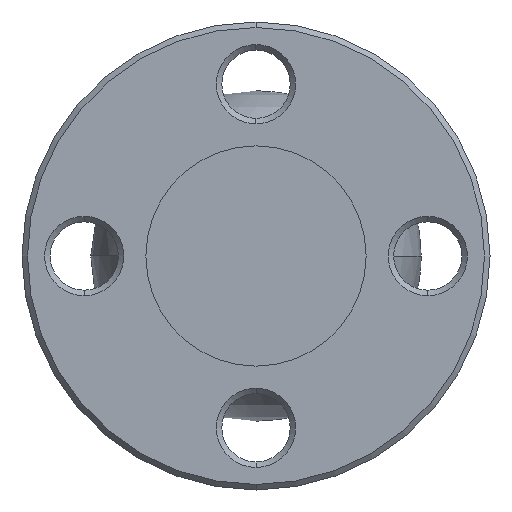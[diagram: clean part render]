
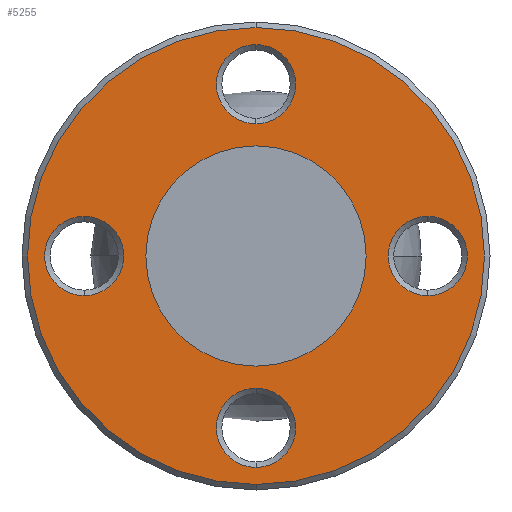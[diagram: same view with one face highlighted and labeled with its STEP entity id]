
A CAD part, front view. The second image highlights one B-rep face of the part: STEP entity #5255.
In plain terms, the highlighted planar face has unit normal (0, -1, 0).
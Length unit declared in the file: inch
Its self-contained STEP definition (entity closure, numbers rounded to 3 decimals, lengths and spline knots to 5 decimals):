
#53 = EDGE_LOOP ( 'NONE', ( #1490, #3469 ) ) ;
#369 = EDGE_LOOP ( 'NONE', ( #1106, #1000 ) ) ;
#420 = CARTESIAN_POINT ( 'NONE',  ( 0., 0.12, 0. ) ) ;
#533 = DIRECTION ( 'NONE',  ( 0., 1., 0. ) ) ;
#542 = ORIENTED_EDGE ( 'NONE', *, *, #836, .T. ) ;
#550 = CARTESIAN_POINT ( 'NONE',  ( -1.56, 0.12, -0.36 ) ) ;
#575 = EDGE_LOOP ( 'NONE', ( #822, #3507 ) ) ;
#586 = AXIS2_PLACEMENT_3D ( 'NONE', #1881, #5227, #2365 ) ;
#608 = AXIS2_PLACEMENT_3D ( 'NONE', #1906, #5249, #2382 ) ;
#717 = EDGE_LOOP ( 'NONE', ( #5828, #4735 ) ) ;
#722 = CIRCLE ( 'NONE', #608, 0.36 ) ;
#822 = ORIENTED_EDGE ( 'NONE', *, *, #3680, .T. ) ;
#836 = EDGE_CURVE ( 'NONE', #4338, #6109, #2460, .T. ) ;
#899 = DIRECTION ( 'NONE',  ( 0., 0., -1. ) ) ;
#953 = CARTESIAN_POINT ( 'NONE',  ( 0., 0.12, -1. ) ) ;
#969 = DIRECTION ( 'NONE',  ( 0., 1., 0. ) ) ;
#1000 = ORIENTED_EDGE ( 'NONE', *, *, #1596, .T. ) ;
#1045 = AXIS2_PLACEMENT_3D ( 'NONE', #5335, #5833, #2970 ) ;
#1106 = ORIENTED_EDGE ( 'NONE', *, *, #3545, .T. ) ;
#1112 = EDGE_CURVE ( 'NONE', #6109, #4338, #2248, .T. ) ;
#1139 = AXIS2_PLACEMENT_3D ( 'NONE', #1467, #4813, #1936 ) ;
#1175 = CARTESIAN_POINT ( 'NONE',  ( 1.56, 0.12, 0. ) ) ;
#1214 = FACE_BOUND ( 'NONE', #575, .T. ) ;
#1215 = AXIS2_PLACEMENT_3D ( 'NONE', #3825, #969, #4308 ) ;
#1336 = CARTESIAN_POINT ( 'NONE',  ( 0., 0.12, 0. ) ) ;
#1467 = CARTESIAN_POINT ( 'NONE',  ( -1.56, 0.12, 0. ) ) ;
#1490 = ORIENTED_EDGE ( 'NONE', *, *, #5633, .F. ) ;
#1505 = CARTESIAN_POINT ( 'NONE',  ( 0., 0.12, -1.56 ) ) ;
#1596 = EDGE_CURVE ( 'NONE', #2556, #2113, #4520, .T. ) ;
#1653 = DIRECTION ( 'NONE',  ( 0., 0., 1. ) ) ;
#1680 = AXIS2_PLACEMENT_3D ( 'NONE', #5097, #2231, #5581 ) ;
#1811 = DIRECTION ( 'NONE',  ( 0., 0., 1. ) ) ;
#1880 = AXIS2_PLACEMENT_3D ( 'NONE', #5273, #2402, #5743 ) ;
#1881 = CARTESIAN_POINT ( 'NONE',  ( 1.56, 0.12, 0. ) ) ;
#1906 = CARTESIAN_POINT ( 'NONE',  ( -1.56, 0.12, 0. ) ) ;
#1936 = DIRECTION ( 'NONE',  ( 0., 0., 1. ) ) ;
#1982 = DIRECTION ( 'NONE',  ( 0., 0., 1. ) ) ;
#2031 = VERTEX_POINT ( 'NONE', #953 ) ;
#2113 = VERTEX_POINT ( 'NONE', #550 ) ;
#2204 = VERTEX_POINT ( 'NONE', #3517 ) ;
#2231 = DIRECTION ( 'NONE',  ( 0., 1., 0. ) ) ;
#2248 = CIRCLE ( 'NONE', #2677, 2.075 ) ;
#2365 = DIRECTION ( 'NONE',  ( 0., 0., 1. ) ) ;
#2366 = VERTEX_POINT ( 'NONE', #3167 ) ;
#2382 = DIRECTION ( 'NONE',  ( 0., 0., 1. ) ) ;
#2402 = DIRECTION ( 'NONE',  ( 0., -1., 0. ) ) ;
#2423 = ORIENTED_EDGE ( 'NONE', *, *, #3391, .T. ) ;
#2460 = CIRCLE ( 'NONE', #5466, 2.075 ) ;
#2477 = FACE_BOUND ( 'NONE', #53, .T. ) ;
#2487 = AXIS2_PLACEMENT_3D ( 'NONE', #3377, #533, #3871 ) ;
#2556 = VERTEX_POINT ( 'NONE', #3710 ) ;
#2592 = CARTESIAN_POINT ( 'NONE',  ( 1.56, 0.12, -0.36 ) ) ;
#2677 = AXIS2_PLACEMENT_3D ( 'NONE', #2733, #6080, #3207 ) ;
#2733 = CARTESIAN_POINT ( 'NONE',  ( 0., 0.12, 0. ) ) ;
#2744 = ORIENTED_EDGE ( 'NONE', *, *, #5724, .T. ) ;
#2788 = CIRCLE ( 'NONE', #586, 0.36 ) ;
#2816 = CIRCLE ( 'NONE', #1880, 1. ) ;
#2970 = DIRECTION ( 'NONE',  ( 0., 0., 1. ) ) ;
#3002 = VERTEX_POINT ( 'NONE', #4071 ) ;
#3073 = CIRCLE ( 'NONE', #5506, 1. ) ;
#3167 = CARTESIAN_POINT ( 'NONE',  ( 0., 0.12, -1.2 ) ) ;
#3207 = DIRECTION ( 'NONE',  ( 0., 0., 1. ) ) ;
#3220 = VERTEX_POINT ( 'NONE', #4455 ) ;
#3377 = CARTESIAN_POINT ( 'NONE',  ( 0., 0.12, -1.56 ) ) ;
#3391 = EDGE_CURVE ( 'NONE', #3877, #3220, #3907, .T. ) ;
#3469 = ORIENTED_EDGE ( 'NONE', *, *, #3567, .F. ) ;
#3507 = ORIENTED_EDGE ( 'NONE', *, *, #5680, .T. ) ;
#3517 = CARTESIAN_POINT ( 'NONE',  ( 0., 0.12, -1.92 ) ) ;
#3545 = EDGE_CURVE ( 'NONE', #2113, #2556, #722, .T. ) ;
#3567 = EDGE_CURVE ( 'NONE', #5241, #2031, #2816, .T. ) ;
#3680 = EDGE_CURVE ( 'NONE', #5912, #3002, #3784, .T. ) ;
#3710 = CARTESIAN_POINT ( 'NONE',  ( -1.56, 0.12, 0.36 ) ) ;
#3717 = EDGE_LOOP ( 'NONE', ( #3837, #542 ) ) ;
#3747 = DIRECTION ( 'NONE',  ( 0., -1., 0. ) ) ;
#3766 = FACE_BOUND ( 'NONE', #4554, .T. ) ;
#3784 = CIRCLE ( 'NONE', #4134, 0.36 ) ;
#3825 = CARTESIAN_POINT ( 'NONE',  ( 0., 0.12, 1.56 ) ) ;
#3837 = ORIENTED_EDGE ( 'NONE', *, *, #1112, .T. ) ;
#3871 = DIRECTION ( 'NONE',  ( 0., 0., 1. ) ) ;
#3877 = VERTEX_POINT ( 'NONE', #6133 ) ;
#3907 = CIRCLE ( 'NONE', #1680, 0.36 ) ;
#4060 = CIRCLE ( 'NONE', #5661, 0.36 ) ;
#4071 = CARTESIAN_POINT ( 'NONE',  ( 1.56, 0.12, 0.36 ) ) ;
#4134 = AXIS2_PLACEMENT_3D ( 'NONE', #1175, #4521, #1653 ) ;
#4263 = CARTESIAN_POINT ( 'NONE',  ( 0., 0.12, -2.075 ) ) ;
#4308 = DIRECTION ( 'NONE',  ( 0., 0., 1. ) ) ;
#4338 = VERTEX_POINT ( 'NONE', #4263 ) ;
#4390 = PLANE ( 'NONE',  #1045 ) ;
#4455 = CARTESIAN_POINT ( 'NONE',  ( 0., 0.12, 1.2 ) ) ;
#4520 = CIRCLE ( 'NONE', #1139, 0.36 ) ;
#4521 = DIRECTION ( 'NONE',  ( 0., 1., 0. ) ) ;
#4554 = EDGE_LOOP ( 'NONE', ( #2744, #2423 ) ) ;
#4627 = CARTESIAN_POINT ( 'NONE',  ( 0., 0.12, 2.075 ) ) ;
#4689 = DIRECTION ( 'NONE',  ( 0., -1., 0. ) ) ;
#4735 = ORIENTED_EDGE ( 'NONE', *, *, #5214, .T. ) ;
#4813 = DIRECTION ( 'NONE',  ( 0., 1., 0. ) ) ;
#4846 = DIRECTION ( 'NONE',  ( 0., 1., 0. ) ) ;
#4859 = CIRCLE ( 'NONE', #2487, 0.36 ) ;
#5030 = FACE_BOUND ( 'NONE', #717, .T. ) ;
#5097 = CARTESIAN_POINT ( 'NONE',  ( 0., 0.12, 1.56 ) ) ;
#5189 = FACE_OUTER_BOUND ( 'NONE', #3717, .T. ) ;
#5214 = EDGE_CURVE ( 'NONE', #2366, #2204, #4060, .T. ) ;
#5227 = DIRECTION ( 'NONE',  ( 0., 1., 0. ) ) ;
#5241 = VERTEX_POINT ( 'NONE', #5771 ) ;
#5249 = DIRECTION ( 'NONE',  ( 0., 1., 0. ) ) ;
#5255 = ADVANCED_FACE ( 'NONE', ( #3766, #5030, #5189, #2477, #1214, #6168 ), #4390, .F. ) ;
#5273 = CARTESIAN_POINT ( 'NONE',  ( 0., 0.12, 0. ) ) ;
#5315 = CIRCLE ( 'NONE', #1215, 0.36 ) ;
#5335 = CARTESIAN_POINT ( 'NONE',  ( 1., 0.12, 0. ) ) ;
#5466 = AXIS2_PLACEMENT_3D ( 'NONE', #1336, #4689, #1811 ) ;
#5506 = AXIS2_PLACEMENT_3D ( 'NONE', #420, #3747, #899 ) ;
#5581 = DIRECTION ( 'NONE',  ( 0., 0., 1. ) ) ;
#5633 = EDGE_CURVE ( 'NONE', #2031, #5241, #3073, .T. ) ;
#5661 = AXIS2_PLACEMENT_3D ( 'NONE', #1505, #4846, #1982 ) ;
#5680 = EDGE_CURVE ( 'NONE', #3002, #5912, #2788, .T. ) ;
#5724 = EDGE_CURVE ( 'NONE', #3220, #3877, #5315, .T. ) ;
#5743 = DIRECTION ( 'NONE',  ( 0., 0., -1. ) ) ;
#5759 = EDGE_CURVE ( 'NONE', #2204, #2366, #4859, .T. ) ;
#5771 = CARTESIAN_POINT ( 'NONE',  ( 0., 0.12, 1. ) ) ;
#5828 = ORIENTED_EDGE ( 'NONE', *, *, #5759, .T. ) ;
#5833 = DIRECTION ( 'NONE',  ( 0., 1., 0. ) ) ;
#5912 = VERTEX_POINT ( 'NONE', #2592 ) ;
#6080 = DIRECTION ( 'NONE',  ( 0., -1., 0. ) ) ;
#6109 = VERTEX_POINT ( 'NONE', #4627 ) ;
#6133 = CARTESIAN_POINT ( 'NONE',  ( 0., 0.12, 1.92 ) ) ;
#6168 = FACE_BOUND ( 'NONE', #369, .T. ) ;
